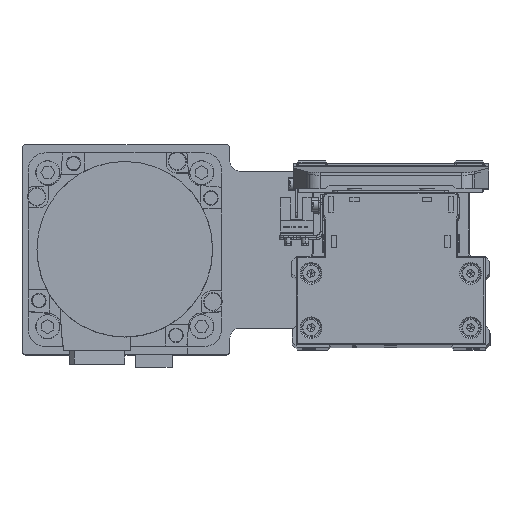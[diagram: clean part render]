
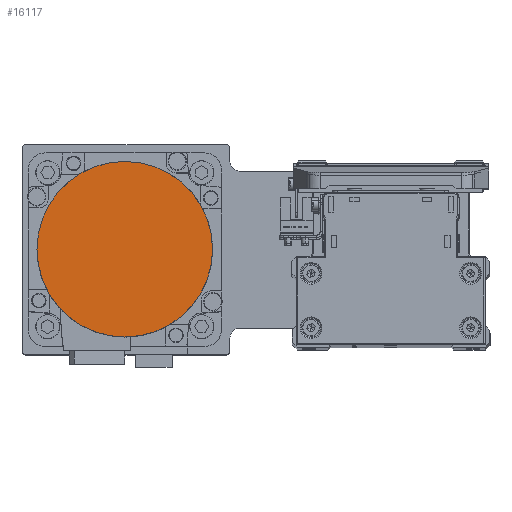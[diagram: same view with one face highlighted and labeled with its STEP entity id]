
A CAD part, top view. The second image highlights one B-rep face of the part: STEP entity #16117.
In plain terms, the highlighted planar face has unit normal (0, 0, 1) as drawn and (0, 0, -1) by its records, which use the part's own axes.
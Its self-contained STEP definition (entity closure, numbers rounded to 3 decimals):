
#839 = DIRECTION ( 'NONE',  ( 1., 0., 0. ) ) ;
#3828 = PLANE ( 'NONE',  #29759 ) ;
#6684 = CARTESIAN_POINT ( 'NONE',  ( 0., -36.3, -122.2 ) ) ;
#7261 = ORIENTED_EDGE ( 'NONE', *, *, #22117, .F. ) ;
#8713 = DIRECTION ( 'NONE',  ( 0., 1., 0. ) ) ;
#10412 = DIRECTION ( 'NONE',  ( 0., 0., 1. ) ) ;
#10909 = CIRCLE ( 'NONE', #33231, 36.3 ) ;
#14077 = EDGE_CURVE ( 'NONE', #25164, #34621, #21172, .T. ) ;
#15512 = ORIENTED_EDGE ( 'NONE', *, *, #14077, .F. ) ;
#15707 = EDGE_LOOP ( 'NONE', ( #15512, #7261 ) ) ;
#16077 = CARTESIAN_POINT ( 'NONE',  ( 0., 0., -122.2 ) ) ;
#16117 = ADVANCED_FACE ( 'NONE', ( #31248 ), #3828, .F. ) ;
#21172 = CIRCLE ( 'NONE', #26303, 36.3 ) ;
#22117 = EDGE_CURVE ( 'NONE', #34621, #25164, #10909, .T. ) ;
#22617 = DIRECTION ( 'NONE',  ( 0., -1., 0. ) ) ;
#23927 = CARTESIAN_POINT ( 'NONE',  ( 0., 0., -122.2 ) ) ;
#25164 = VERTEX_POINT ( 'NONE', #36963 ) ;
#26303 = AXIS2_PLACEMENT_3D ( 'NONE', #23927, #36097, #8713 ) ;
#28261 = DIRECTION ( 'NONE',  ( 0., 0., 1. ) ) ;
#29759 = AXIS2_PLACEMENT_3D ( 'NONE', #16077, #28261, #839 ) ;
#31248 = FACE_OUTER_BOUND ( 'NONE', #15707, .T. ) ;
#33231 = AXIS2_PLACEMENT_3D ( 'NONE', #37777, #10412, #22617 ) ;
#34621 = VERTEX_POINT ( 'NONE', #6684 ) ;
#36097 = DIRECTION ( 'NONE',  ( 0., 0., 1. ) ) ;
#36963 = CARTESIAN_POINT ( 'NONE',  ( 0., 36.3, -122.2 ) ) ;
#37777 = CARTESIAN_POINT ( 'NONE',  ( 0., 0., -122.2 ) ) ;
